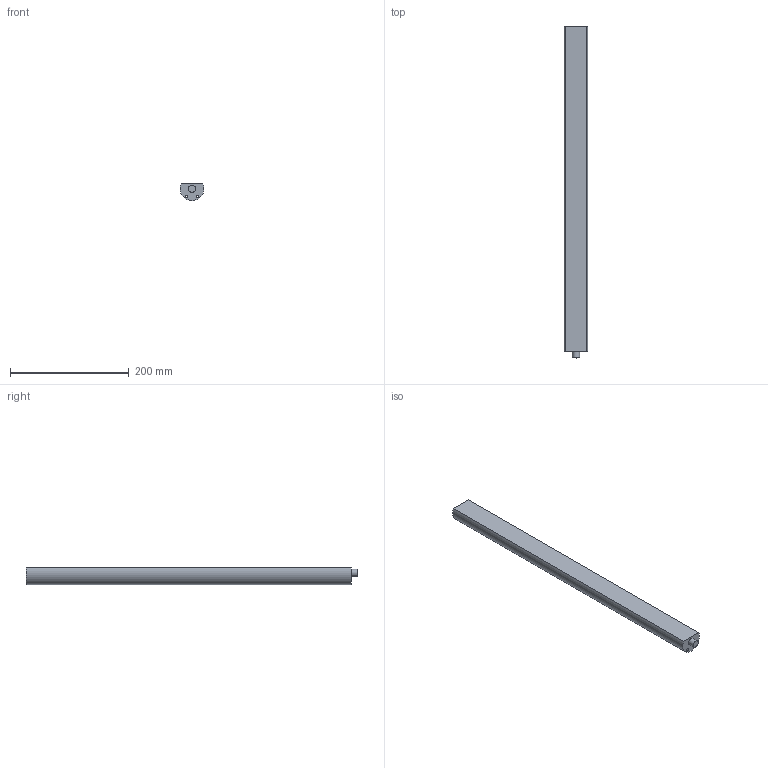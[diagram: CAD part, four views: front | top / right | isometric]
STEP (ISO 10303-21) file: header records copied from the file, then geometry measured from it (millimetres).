
FILE_DESCRIPTION(('FreeCAD Model'),'2;1');
FILE_NAME('Open CASCADE Shape Model','2026-01-08T09:09:54',(''),(''), 'Open CASCADE STEP processor 7.6','FreeCAD','Unknown');
FILE_SCHEMA(('AUTOMOTIVE_DESIGN { 1 0 10303 214 1 1 1 1 }'));
Length unit declared in the file: millimetre
Products named in the file (1): Körper
Bounding box: 39.96 x 559 x 29 mm (x, y, z)
Volume: 518534.8 mm3; surface area: 82035.5 mm2
Topology: 1 solids, 1 shells, 8 faces, 15 edges, 10 vertices
Faces by surface type: cylinder 4, plane 4
Full cylindrical faces by diameter (mm): 4.5 x2, 12 x1
Entity records: 237 total; most frequent: DIRECTION 41, CARTESIAN_POINT 34, ORIENTED_EDGE 30, AXIS2_PLACEMENT_3D 17, EDGE_CURVE 15, FACE_BOUND 13, EDGE_LOOP 13, VERTEX_POINT 10
